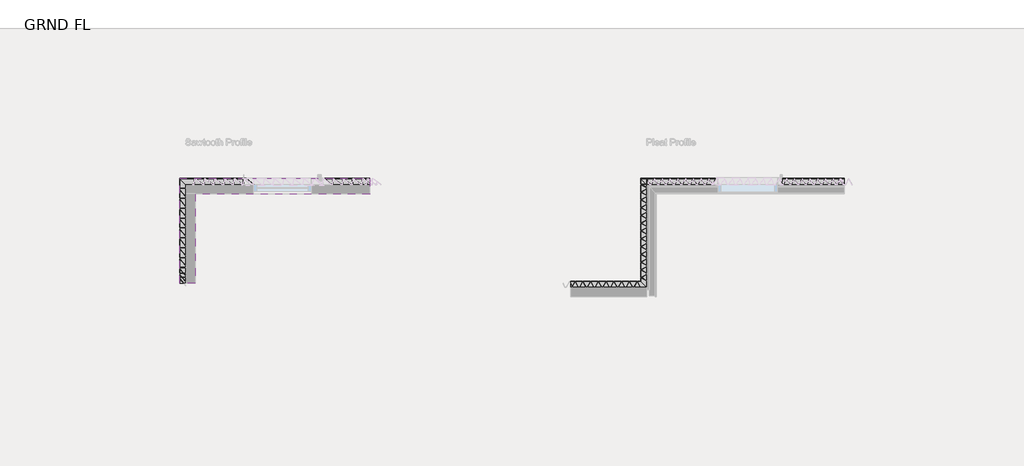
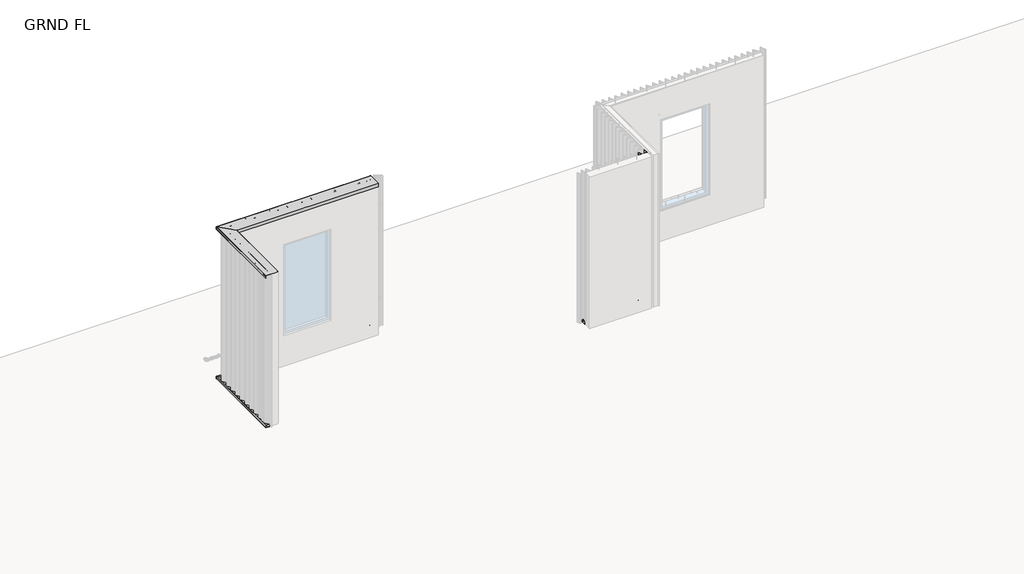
# One storey, part 8 of 13: 5 proxies.
"""IFC4 building model written with IfcOpenShell, lengths in millimetres."""

from ifc_helpers import new_model, si_unit, frame, origin, place, context, project, spatial, polyline, circle_curve, ellipse_curve, outline, extrude, element, save
from ifc_brep_helpers import plane_surface, cylinder_surface, revolved_surface, advanced_brep

model = new_model("IFC4")

# Units and contexts
model_context = context("Model", 3, world=origin())
ifc_project = project(units=[si_unit("LENGTHUNIT", "METRE", prefix="MILLI")], contexts=[model_context])

# Site, building, storey
site = spatial("IfcSite", under=ifc_project)
building = spatial("IfcBuilding", under=site)
storey = spatial("IfcBuildingStorey", under=building, Name="GRND FL", Elevation=35277.5920148)

# Proxies
placement = place(None, origin())
element("IfcBuildingElementProxy", 1, Name="Nineline Toe Flashing 90", ObjectType="Nineline Toe Flashing 90", at=placement, inside=storey, context=model_context, shape_type="AdvancedBrep", body=[
    advanced_brep(
    [(54399.6836337, -3651.6146039, 35324.5924717), (54399.6836337, -3651.6146039, 35280.5920148), (54402.6836337, -3654.6146039, 35277.5920148), (54492.6836337, -3744.6146039, 35277.5920148), (54475.0059641, -3726.9369344, 35295.2696843), (54474.2988573, -3726.2298276, 35294.5625775), (54490.2694201, -3742.2003903, 35278.5920148), (54402.6836337, -3654.6146039, 35278.5920148), (54400.6836337, -3652.6146039, 35280.5920148), (54400.6836337, -3652.6146039, 35324.5924717), (54402.6487288, -3654.5796991, 35326.5921671), (54494.6836337, -3746.6146039, 35328.1986423), (54494.6836337, -3746.6146039, 35407.5920148), (54493.6836337, -3745.6146039, 35407.5920148), (54493.6836337, -3745.6146039, 35329.1813396), (54402.6312764, -3654.5622467, 35327.5920148), (57493.6836337, -3651.6146039, 35324.5924717), (57493.6836337, -3654.5622467, 35327.5920148), (57493.6836337, -3745.6146039, 35329.1813396), (57493.6836337, -3745.6146039, 35407.5920148), (57493.6836337, -3746.6146039, 35407.5920148), (57493.6836337, -3746.6146039, 35328.1986423), (57493.6836337, -3654.5796991, 35326.5921671), (57493.6836337, -3652.6146039, 35324.5924717), (57493.6836337, -3652.6146039, 35280.5920148), (57493.6836337, -3654.6146039, 35278.5920148), (57493.6836337, -3742.2003903, 35278.5920148), (57493.6836337, -3726.2298276, 35294.5625775), (57493.6836337, -3726.9369344, 35295.2696843), (57493.6836337, -3744.6146039, 35277.5920148), (57493.6836337, -3654.6146039, 35277.5920148), (57493.6836337, -3651.6146039, 35280.5920148)],
    [
        (0, 1),
        (1, 2, ellipse_curve(frame((54402.6836337, -3654.6146039, 35280.5920148), z_axis=(-0.7071067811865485, -0.7071067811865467, 0.0), x_axis=(-0.7071067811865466, 0.7071067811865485, 0.0)), 4.2426407, 3.0)),
        (2, 3),
        (3, 4),
        (4, 5),
        (5, 6),
        (6, 7),
        (7, 8, ellipse_curve(frame((54402.6836337, -3654.6146039, 35280.5920148), z_axis=(0.7071067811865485, 0.7071067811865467, 0.0), x_axis=(0.7071067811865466, -0.7071067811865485, 0.0)), 2.8284271, 2.0)),
        (8, 9),
        (9, 10, ellipse_curve(frame((54402.6836337, -3654.6146039, 35324.5924717), z_axis=(0.7071067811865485, 0.7071067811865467, 0.0), x_axis=(0.7071067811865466, -0.7071067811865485, 0.0)), 2.8284271, 2.0)),
        (10, 11),
        (11, 12),
        (12, 13),
        (13, 14),
        (14, 15),
        (15, 0, ellipse_curve(frame((54402.6836337, -3654.6146039, 35324.5924717), z_axis=(-0.7071067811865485, -0.7071067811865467, 0.0), x_axis=(-0.7071067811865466, 0.7071067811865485, 0.0)), 4.2426407, 3.0)),
        (16, 17, circle_curve(frame((57493.6836337, -3654.6146039, 35324.5924717), z_axis=(1.0, 0.0, 0.0), x_axis=(0.0, 1.0, 0.0)), 3.0)),
        (17, 18),
        (18, 19),
        (19, 20),
        (20, 21),
        (21, 22),
        (22, 23, circle_curve(frame((57493.6836337, -3654.6146039, 35324.5924717), z_axis=(-1.0, 0.0, 0.0), x_axis=(0.0, 1.0, 0.0)), 2.0)),
        (23, 24),
        (24, 25, circle_curve(frame((57493.6836337, -3654.6146039, 35280.5920148), z_axis=(-1.0, 0.0, 0.0), x_axis=(0.0, 1.0, 0.0)), 2.0)),
        (25, 26),
        (26, 27),
        (27, 28),
        (28, 29),
        (29, 30),
        (30, 31, circle_curve(frame((57493.6836337, -3654.6146039, 35280.5920148), z_axis=(1.0, 0.0, 0.0), x_axis=(0.0, 1.0, 0.0)), 3.0)),
        (31, 16),
        (0, 16),
        (31, 1),
        (3, 29),
        (28, 4),
        (27, 5),
        (26, 6),
        (8, 24),
        (23, 9),
        (22, 10),
        (21, 11),
        (13, 19),
        (18, 14),
        (12, 20),
        (17, 15),
        (30, 2),
        (25, 7),
    ],
    [
        plane_surface(frame((54494.6836337, -3746.6146039, 35612.3920148), z_axis=(-0.7071067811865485, -0.7071067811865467, 0.0), x_axis=(0.7071067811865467, -0.7071067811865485, 0.0))),
        plane_surface(frame((57493.6836337, -3746.6146039, 35207.5870149), z_axis=(1.0, 0.0, 0.0), x_axis=(0.0, 1.0, 0.0))),
        plane_surface(frame((54399.6836337, -3651.6146039, 35324.5924717), z_axis=(0.0, 1.0, 0.0), x_axis=(1.0, 0.0, 0.0))),
        plane_surface(frame((54492.6836337, -3744.6146039, 35277.5920148), z_axis=(0.0, -0.7071067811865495, 0.7071067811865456), x_axis=(1.0, 0.0, 0.0))),
        plane_surface(frame((54475.0059641, -3726.9369344, 35295.2696843), z_axis=(0.0, 0.7071067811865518, 0.7071067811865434), x_axis=(1.0, 0.0, 0.0))),
        plane_surface(frame((54474.2988573, -3726.2298276, 35294.5625775), z_axis=(0.0, 0.7071067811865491, -0.707106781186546), x_axis=(1.0, 0.0, 0.0))),
        plane_surface(frame((54400.6836337, -3652.6146039, 35280.5920148), z_axis=(0.0, -1.0, 0.0), x_axis=(1.0, 0.0, 0.0))),
        revolved_surface(polyline([(57493.6836337, -3652.6146039, 35324.5924717), (54400.6836337, -3652.6146039, 35324.5924717)]), (54494.6836337, -3654.6146039, 35324.5924717), (1.0, 0.0, 0.0)),
        plane_surface(frame((54402.6487288, -3654.5796991, 35326.5921671), z_axis=(0.0, -0.017452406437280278, -0.9998476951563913), x_axis=(1.0, 0.0, 0.0))),
        plane_surface(frame((54493.6836337, -3745.6146039, 35407.5920148), z_axis=(0.0, 1.0, 0.0), x_axis=(1.0, 0.0, 0.0))),
        plane_surface(frame((54494.6836337, -3746.6146039, 35407.5920148), z_axis=(0.0, 0.0, 1.0), x_axis=(1.0, 0.0, 0.0))),
        plane_surface(frame((54494.6836337, -3746.6146039, 35328.1986423), z_axis=(0.0, -1.0, 0.0), x_axis=(1.0, 0.0, 0.0))),
        plane_surface(frame((54493.6836337, -3745.6146039, 35329.1813396), z_axis=(0.0, 0.017452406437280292, 0.9998476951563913), x_axis=(1.0, 0.0, 0.0))),
        cylinder_surface(frame((54494.6836337, -3654.6146039, 35324.5924717), z_axis=(-1.0, 0.0, 0.0), x_axis=(0.0, 1.0, 0.0)), 3.0),
        cylinder_surface(frame((54494.6836337, -3654.6146039, 35280.5920148), z_axis=(-1.0, 0.0, 0.0), x_axis=(0.0, 1.0, 0.0)), 3.0),
        plane_surface(frame((54402.6836337, -3654.6146039, 35277.5920148), z_axis=(0.0, 0.0, -1.0), x_axis=(1.0, 0.0, 0.0))),
        plane_surface(frame((54490.2694201, -3742.2003903, 35278.5920148), z_axis=(0.0, 0.0, 1.0), x_axis=(1.0, 0.0, 0.0))),
        revolved_surface(polyline([(57493.6836337, -3652.6146039, 35280.5920148), (54400.6836337, -3652.6146039, 35280.5920148)]), (54494.6836337, -3654.6146039, 35280.5920148), (1.0, 0.0, 0.0)),
    ],
    [
        (0, [[1, 2, 3, 4, 5, 6, 7, 8, 9, 10, 11, 12, 13, 14, 15, 16]]),
        (1, [[17, 18, 19, 20, 21, 22, 23, 24, 25, 26, 27, 28, 29, 30, 31, 32]]),
        (2, [[-1, 33, -32, 34]]),
        (3, [[-4, 35, -29, 36]]),
        (4, [[-5, -36, -28, 37]]),
        (5, [[-6, -37, -27, 38]]),
        (6, [[-9, 39, -24, 40]]),
        (7, [[-10, -40, -23, 41]]),
        (8, [[-11, -41, -22, 42]]),
        (9, [[-14, 43, -19, 44]]),
        (10, [[-13, 45, -20, -43]]),
        (11, [[-12, -42, -21, -45]]),
        (12, [[-15, -44, -18, 46]]),
        (13, [[-16, -46, -17, -33]]),
        (14, [[-2, -34, -31, 47]]),
        (15, [[-3, -47, -30, -35]]),
        (16, [[-7, -38, -26, 48]]),
        (17, [[-8, -48, -25, -39]]),
    ],
),
    advanced_brep(
    [(54399.6836337, -3651.6146039, 35324.5924717), (54402.6312764, -3654.5622467, 35327.5920148), (54493.6836337, -3745.6146039, 35329.1813396), (54493.6836337, -3745.6146039, 35407.5920148), (54494.6836337, -3746.6146039, 35407.5920148), (54494.6836337, -3746.6146039, 35328.1986423), (54402.6487288, -3654.5796991, 35326.5921671), (54400.6836337, -3652.6146039, 35324.5924717), (54400.6836337, -3652.6146039, 35280.5920148), (54402.6836337, -3654.6146039, 35278.5920148), (54490.2694201, -3742.2003903, 35278.5920148), (54474.2988573, -3726.2298276, 35294.5625775), (54475.0059641, -3726.9369344, 35295.2696843), (54492.6836337, -3744.6146039, 35277.5920148), (54402.6836337, -3654.6146039, 35277.5920148), (54399.6836337, -3651.6146039, 35280.5920148), (54399.6836337, -5211.8489789, 35324.5924717), (54399.6836337, -5211.8489789, 35280.5920148), (54402.6836337, -5214.8489789, 35277.5920148), (54492.6836337, -5304.8489789, 35277.5920148), (54475.0059641, -5287.1713094, 35295.2696843), (54474.2988573, -5286.4642026, 35294.5625775), (54490.2694201, -5302.4347653, 35278.5920148), (54402.6836337, -5214.8489789, 35278.5920148), (54400.6836337, -5212.8489789, 35280.5920148), (54400.6836337, -5212.8489789, 35324.5924717), (54402.6487288, -5214.8140741, 35326.5921671), (54494.6836337, -5306.8489789, 35328.1986423), (54494.6836337, -5306.8489789, 35407.5920148), (54493.6836337, -5305.8489789, 35407.5920148), (54493.6836337, -5305.8489789, 35329.1813396), (54402.6312764, -5214.7966217, 35327.5920148)],
    [
        (0, 1, ellipse_curve(frame((54402.6836337, -3654.6146039, 35324.5924717), z_axis=(0.7071067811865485, 0.7071067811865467, 0.0), x_axis=(-0.7071067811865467, 0.7071067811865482, 0.0)), 4.2426407, 3.0)),
        (1, 2),
        (2, 3),
        (3, 4),
        (4, 5),
        (5, 6),
        (6, 7, ellipse_curve(frame((54402.6836337, -3654.6146039, 35324.5924717), z_axis=(-0.7071067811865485, -0.7071067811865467, 0.0), x_axis=(0.7071067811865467, -0.7071067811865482, 0.0)), 2.8284271, 2.0)),
        (7, 8),
        (8, 9, ellipse_curve(frame((54402.6836337, -3654.6146039, 35280.5920148), z_axis=(-0.7071067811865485, -0.7071067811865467, 0.0), x_axis=(0.7071067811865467, -0.7071067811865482, 0.0)), 2.8284271, 2.0)),
        (9, 10),
        (10, 11),
        (11, 12),
        (12, 13),
        (13, 14),
        (14, 15, ellipse_curve(frame((54402.6836337, -3654.6146039, 35280.5920148), z_axis=(0.7071067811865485, 0.7071067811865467, 0.0), x_axis=(-0.7071067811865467, 0.7071067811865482, 0.0)), 4.2426407, 3.0)),
        (15, 0),
        (16, 17),
        (17, 18, ellipse_curve(frame((54402.6836337, -5214.8489789, 35280.5920148), z_axis=(-0.7071067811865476, -0.7071067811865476, 0.0), x_axis=(-0.7071067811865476, 0.7071067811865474, 0.0)), 4.2426407, 3.0)),
        (18, 19),
        (19, 20),
        (20, 21),
        (21, 22),
        (22, 23),
        (23, 24, ellipse_curve(frame((54402.6836337, -5214.8489789, 35280.5920148), z_axis=(0.7071067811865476, 0.7071067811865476, 0.0), x_axis=(0.7071067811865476, -0.7071067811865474, 0.0)), 2.8284271, 2.0)),
        (24, 25),
        (25, 26, ellipse_curve(frame((54402.6836337, -5214.8489789, 35324.5924717), z_axis=(0.7071067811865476, 0.7071067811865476, 0.0), x_axis=(0.7071067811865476, -0.7071067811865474, 0.0)), 2.8284271, 2.0)),
        (26, 27),
        (27, 28),
        (28, 29),
        (29, 30),
        (30, 31),
        (31, 16, ellipse_curve(frame((54402.6836337, -5214.8489789, 35324.5924717), z_axis=(-0.7071067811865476, -0.7071067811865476, 0.0), x_axis=(-0.7071067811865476, 0.7071067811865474, 0.0)), 4.2426407, 3.0)),
        (0, 16),
        (31, 1),
        (30, 2),
        (29, 3),
        (28, 4),
        (27, 5),
        (26, 6),
        (25, 7),
        (24, 8),
        (23, 9),
        (22, 10),
        (21, 11),
        (20, 12),
        (19, 13),
        (18, 14),
        (17, 15),
    ],
    [
        plane_surface(frame((54494.6836337, -3746.6146039, 35002.7920148), z_axis=(0.7071067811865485, 0.7071067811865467, 0.0), x_axis=(0.7071067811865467, -0.7071067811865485, 0.0))),
        plane_surface(frame((54494.6836337, -5306.8489789, 35612.3920148), z_axis=(-0.7071067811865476, -0.7071067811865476, 0.0), x_axis=(-0.7071067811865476, 0.7071067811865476, 0.0))),
        cylinder_surface(frame((54402.6836337, -3746.6146039, 35324.5924717), z_axis=(0.0, 1.0, 0.0), x_axis=(-1.0, 0.0, 0.0)), 3.0),
        plane_surface(frame((54402.6312764, -3654.5622467, 35327.5920148), z_axis=(-0.017452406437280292, 0.0, 0.9998476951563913), x_axis=(0.0, -1.0, 0.0))),
        plane_surface(frame((54493.6836337, -3745.6146039, 35329.1813396), z_axis=(-1.0, 0.0, 0.0), x_axis=(0.0, -1.0, 0.0))),
        plane_surface(frame((54493.6836337, -3745.6146039, 35407.5920148), z_axis=(0.0, 0.0, 1.0), x_axis=(0.0, -1.0, 0.0))),
        plane_surface(frame((54494.6836337, -3746.6146039, 35407.5920148), z_axis=(1.0, 0.0, 0.0), x_axis=(0.0, -1.0, 0.0))),
        plane_surface(frame((54494.6836337, -3746.6146039, 35328.1986423), z_axis=(0.017452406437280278, 0.0, -0.9998476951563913), x_axis=(0.0, -1.0, 0.0))),
        revolved_surface(polyline([(54400.6836337, -5216.848978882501, 35324.5924717), (54400.6836337, -3652.6146039, 35324.5924717)]), (54402.6836337, -3746.6146039, 35324.5924717), (0.0, -1.0, 0.0)),
        plane_surface(frame((54400.6836337, -3652.6146039, 35324.5924717), z_axis=(1.0, 0.0, 0.0), x_axis=(0.0, -1.0, 0.0))),
        revolved_surface(polyline([(54400.6836337, -5216.848978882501, 35280.5920148), (54400.6836337, -3652.6146039, 35280.5920148)]), (54402.6836337, -3746.6146039, 35280.5920148), (0.0, -1.0, 0.0)),
        plane_surface(frame((54402.6836337, -3654.6146039, 35278.5920148), z_axis=(0.0, 0.0, 1.0), x_axis=(0.0, -1.0, 0.0))),
        plane_surface(frame((54490.2694201, -3742.2003903, 35278.5920148), z_axis=(-0.7071067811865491, 0.0, -0.707106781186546), x_axis=(0.0, -1.0, 0.0))),
        plane_surface(frame((54474.2988573, -3726.2298276, 35294.5625775), z_axis=(-0.7071067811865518, 0.0, 0.7071067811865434), x_axis=(0.0, -1.0, 0.0))),
        plane_surface(frame((54475.0059641, -3726.9369344, 35295.2696843), z_axis=(0.7071067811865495, 0.0, 0.7071067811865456), x_axis=(0.0, -1.0, 0.0))),
        plane_surface(frame((54492.6836337, -3744.6146039, 35277.5920148), z_axis=(0.0, 0.0, -1.0), x_axis=(0.0, -1.0, 0.0))),
        cylinder_surface(frame((54402.6836337, -3746.6146039, 35280.5920148), z_axis=(0.0, 1.0, 0.0), x_axis=(-1.0, 0.0, 0.0)), 3.0),
        plane_surface(frame((54399.6836337, -3651.6146039, 35280.5920148), z_axis=(-1.0, 0.0, 0.0), x_axis=(0.0, -1.0, 0.0))),
    ],
    [
        (0, [[1, 2, 3, 4, 5, 6, 7, 8, 9, 10, 11, 12, 13, 14, 15, 16]]),
        (1, [[17, 18, 19, 20, 21, 22, 23, 24, 25, 26, 27, 28, 29, 30, 31, 32]]),
        (2, [[-1, 33, -32, 34]]),
        (3, [[-2, -34, -31, 35]]),
        (4, [[-3, -35, -30, 36]]),
        (5, [[-4, -36, -29, 37]]),
        (6, [[-5, -37, -28, 38]]),
        (7, [[-6, -38, -27, 39]]),
        (8, [[-7, -39, -26, 40]]),
        (9, [[-8, -40, -25, 41]]),
        (10, [[-9, -41, -24, 42]]),
        (11, [[-10, -42, -23, 43]]),
        (12, [[-11, -43, -22, 44]]),
        (13, [[-12, -44, -21, 45]]),
        (14, [[-13, -45, -20, 46]]),
        (15, [[-14, -46, -19, 47]]),
        (16, [[-15, -47, -18, 48]]),
        (17, [[-16, -48, -17, -33]]),
    ],
),
    advanced_brep(
    [(54399.6836337, -5211.8489789, 35324.5924717), (54402.6312764, -5214.7966217, 35327.5920148), (54493.6836337, -5305.8489789, 35329.1813396), (54493.6836337, -5305.8489789, 35407.5920148), (54494.6836337, -5306.8489789, 35407.5920148), (54494.6836337, -5306.8489789, 35328.1986423), (54402.6487288, -5214.8140741, 35326.5921671), (54400.6836337, -5212.8489789, 35324.5924717), (54400.6836337, -5212.8489789, 35280.5920148), (54402.6836337, -5214.8489789, 35278.5920148), (54490.2694201, -5302.4347653, 35278.5920148), (54474.2988573, -5286.4642026, 35294.5625775), (54475.0059641, -5287.1713094, 35295.2696843), (54492.6836337, -5304.8489789, 35277.5920148), (54402.6836337, -5214.8489789, 35277.5920148), (54399.6836337, -5211.8489789, 35280.5920148), (53334.6836337, -5211.8489789, 35324.5924717), (53334.6836337, -5211.8489789, 35280.5920148), (53334.6836337, -5214.8489789, 35277.5920148), (53334.6836337, -5304.8489789, 35277.5920148), (53334.6836337, -5287.1713094, 35295.2696843), (53334.6836337, -5286.4642026, 35294.5625775), (53334.6836337, -5302.4347653, 35278.5920148), (53334.6836337, -5214.8489789, 35278.5920148), (53334.6836337, -5212.8489789, 35280.5920148), (53334.6836337, -5212.8489789, 35324.5924717), (53334.6836337, -5214.8140741, 35326.5921671), (53334.6836337, -5306.8489789, 35328.1986423), (53334.6836337, -5306.8489789, 35407.5920148), (53334.6836337, -5305.8489789, 35407.5920148), (53334.6836337, -5305.8489789, 35329.1813396), (53334.6836337, -5214.7966217, 35327.5920148)],
    [
        (0, 1, ellipse_curve(frame((54402.6836337, -5214.8489789, 35324.5924717), z_axis=(0.7071067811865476, 0.7071067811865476, 0.0), x_axis=(0.7071067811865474, -0.7071067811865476, 0.0)), 4.2426407, 3.0)),
        (1, 2),
        (2, 3),
        (3, 4),
        (4, 5),
        (5, 6),
        (6, 7, ellipse_curve(frame((54402.6836337, -5214.8489789, 35324.5924717), z_axis=(-0.7071067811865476, -0.7071067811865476, 0.0), x_axis=(-0.7071067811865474, 0.7071067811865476, 0.0)), 2.8284271, 2.0)),
        (7, 8),
        (8, 9, ellipse_curve(frame((54402.6836337, -5214.8489789, 35280.5920148), z_axis=(-0.7071067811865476, -0.7071067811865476, 0.0), x_axis=(-0.7071067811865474, 0.7071067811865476, 0.0)), 2.8284271, 2.0)),
        (9, 10),
        (10, 11),
        (11, 12),
        (12, 13),
        (13, 14),
        (14, 15, ellipse_curve(frame((54402.6836337, -5214.8489789, 35280.5920148), z_axis=(0.7071067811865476, 0.7071067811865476, 0.0), x_axis=(0.7071067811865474, -0.7071067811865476, 0.0)), 4.2426407, 3.0)),
        (15, 0),
        (16, 17),
        (17, 18, circle_curve(frame((53334.6836337, -5214.8489789, 35280.5920148), z_axis=(-1.0, 0.0, 0.0), x_axis=(0.0, 1.0, 0.0)), 3.0)),
        (18, 19),
        (19, 20),
        (20, 21),
        (21, 22),
        (22, 23),
        (23, 24, circle_curve(frame((53334.6836337, -5214.8489789, 35280.5920148), z_axis=(1.0, 0.0, 0.0), x_axis=(0.0, 1.0, 0.0)), 2.0)),
        (24, 25),
        (25, 26, circle_curve(frame((53334.6836337, -5214.8489789, 35324.5924717), z_axis=(1.0, 0.0, 0.0), x_axis=(0.0, 1.0, 0.0)), 2.0)),
        (26, 27),
        (27, 28),
        (28, 29),
        (29, 30),
        (30, 31),
        (31, 16, circle_curve(frame((53334.6836337, -5214.8489789, 35324.5924717), z_axis=(-1.0, 0.0, 0.0), x_axis=(0.0, 1.0, 0.0)), 3.0)),
        (0, 16),
        (31, 1),
        (30, 2),
        (29, 3),
        (28, 4),
        (27, 5),
        (26, 6),
        (25, 7),
        (24, 8),
        (23, 9),
        (22, 10),
        (21, 11),
        (20, 12),
        (19, 13),
        (18, 14),
        (17, 15),
    ],
    [
        plane_surface(frame((54494.6836337, -5306.8489789, 35612.3920148), z_axis=(0.7071067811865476, 0.7071067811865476, 0.0), x_axis=(-0.7071067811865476, 0.7071067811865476, 0.0))),
        plane_surface(frame((53334.6836337, -5306.8489789, 35207.5870149), z_axis=(-1.0, 0.0, 0.0), x_axis=(0.0, -1.0, 0.0))),
        cylinder_surface(frame((54494.6836337, -5214.8489789, 35324.5924717), z_axis=(1.0, 0.0, 0.0), x_axis=(0.0, 1.0, 0.0)), 3.0),
        plane_surface(frame((54402.6312764, -5214.7966217, 35327.5920148), z_axis=(0.0, 0.017452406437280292, 0.9998476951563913), x_axis=(-1.0, 0.0, 0.0))),
        plane_surface(frame((54493.6836337, -5305.8489789, 35329.1813396), z_axis=(0.0, 1.0, 0.0), x_axis=(-1.0, 0.0, 0.0))),
        plane_surface(frame((54493.6836337, -5305.8489789, 35407.5920148), z_axis=(0.0, 0.0, 1.0), x_axis=(-1.0, 0.0, 0.0))),
        plane_surface(frame((54494.6836337, -5306.8489789, 35407.5920148), z_axis=(0.0, -1.0, 0.0), x_axis=(-1.0, 0.0, 0.0))),
        plane_surface(frame((54494.6836337, -5306.8489789, 35328.1986423), z_axis=(0.0, -0.017452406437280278, -0.9998476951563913), x_axis=(-1.0, 0.0, 0.0))),
        revolved_surface(polyline([(53334.6836337, -5212.8489789, 35324.5924717), (54404.6836336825, -5212.8489789, 35324.5924717)]), (54494.6836337, -5214.8489789, 35324.5924717), (-1.0, 0.0, 0.0)),
        plane_surface(frame((54400.6836337, -5212.8489789, 35324.5924717), z_axis=(0.0, -1.0, 0.0), x_axis=(-1.0, 0.0, 0.0))),
        revolved_surface(polyline([(53334.6836337, -5212.8489789, 35280.5920148), (54404.6836336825, -5212.8489789, 35280.5920148)]), (54494.6836337, -5214.8489789, 35280.5920148), (-1.0, 0.0, 0.0)),
        plane_surface(frame((54402.6836337, -5214.8489789, 35278.5920148), z_axis=(0.0, 0.0, 1.0), x_axis=(-1.0, 0.0, 0.0))),
        plane_surface(frame((54490.2694201, -5302.4347653, 35278.5920148), z_axis=(0.0, 0.7071067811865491, -0.707106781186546), x_axis=(-1.0, 0.0, 0.0))),
        plane_surface(frame((54474.2988573, -5286.4642026, 35294.5625775), z_axis=(0.0, 0.7071067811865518, 0.7071067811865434), x_axis=(-1.0, 0.0, 0.0))),
        plane_surface(frame((54475.0059641, -5287.1713094, 35295.2696843), z_axis=(0.0, -0.7071067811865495, 0.7071067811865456), x_axis=(-1.0, 0.0, 0.0))),
        plane_surface(frame((54492.6836337, -5304.8489789, 35277.5920148), z_axis=(0.0, 0.0, -1.0), x_axis=(-1.0, 0.0, 0.0))),
        cylinder_surface(frame((54494.6836337, -5214.8489789, 35280.5920148), z_axis=(1.0, 0.0, 0.0), x_axis=(0.0, 1.0, 0.0)), 3.0),
        plane_surface(frame((54399.6836337, -5211.8489789, 35280.5920148), z_axis=(0.0, 1.0, 0.0), x_axis=(-1.0, 0.0, 0.0))),
    ],
    [
        (0, [[1, 2, 3, 4, 5, 6, 7, 8, 9, 10, 11, 12, 13, 14, 15, 16]]),
        (1, [[17, 18, 19, 20, 21, 22, 23, 24, 25, 26, 27, 28, 29, 30, 31, 32]]),
        (2, [[-1, 33, -32, 34]]),
        (3, [[-2, -34, -31, 35]]),
        (4, [[-3, -35, -30, 36]]),
        (5, [[-4, -36, -29, 37]]),
        (6, [[-5, -37, -28, 38]]),
        (7, [[-6, -38, -27, 39]]),
        (8, [[-7, -39, -26, 40]]),
        (9, [[-8, -40, -25, 41]]),
        (10, [[-9, -41, -24, 42]]),
        (11, [[-10, -42, -23, 43]]),
        (12, [[-11, -43, -22, 44]]),
        (13, [[-12, -44, -21, 45]]),
        (14, [[-13, -45, -20, 46]]),
        (15, [[-14, -46, -19, 47]]),
        (16, [[-15, -47, -18, 48]]),
        (17, [[-16, -48, -17, -33]]),
    ],
),
])
element("IfcBuildingElementProxy", 2, Name="Nineline Parapet Capping 235", ObjectType="Nineline Parapet Capping 235", at=placement, inside=storey, context=model_context, shape_type="AdvancedBrep", body=[
    advanced_brep(
    [(47398.6836337, -3650.6146039, 38279.5924717), (47398.6836337, -3650.6146039, 38232.5920148), (47402.6836337, -3654.6146039, 38265.1694005), (47401.6910875, -3653.6220578, 38265.2912699), (47399.6836337, -3651.6146039, 38248.9418703), (47399.6836337, -3651.6146039, 38279.5924717), (47401.7185385, -3653.6495087, 38281.5921671), (47637.6836337, -3889.6146039, 38277.473381), (47637.6836337, -3889.6146039, 38212.5920148), (47638.6836337, -3890.6146039, 38212.5920148), (47638.6836337, -3890.6146039, 38278.4560783), (47401.7359909, -3653.6669611, 38282.5920148), (50283.683634, -3650.6146039, 38279.5924717), (50283.683634, -3653.6669611, 38282.5920148), (50283.683634, -3890.6146039, 38278.4560783), (50283.683634, -3890.6146039, 38212.5920148), (50283.683634, -3889.6146039, 38212.5920148), (50283.683634, -3889.6146039, 38277.473381), (50283.683634, -3653.6495087, 38281.5921671), (50283.683634, -3651.6146039, 38279.5924717), (50283.683634, -3651.6146039, 38248.9418703), (50283.683634, -3653.6220578, 38265.2912699), (50283.683634, -3654.6146039, 38265.1694005), (50283.683634, -3650.6146039, 38232.5920148)],
    [
        (0, 1),
        (1, 2),
        (2, 3),
        (3, 4),
        (4, 5),
        (5, 6, ellipse_curve(frame((47401.6836337, -3653.6146039, 38279.5924717), z_axis=(0.7071067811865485, 0.7071067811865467, 0.0), x_axis=(0.7071067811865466, -0.7071067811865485, 0.0)), 2.8284271, 2.0)),
        (6, 7),
        (7, 8),
        (8, 9),
        (9, 10),
        (10, 11),
        (11, 0, ellipse_curve(frame((47401.6836337, -3653.6146039, 38279.5924717), z_axis=(-0.7071067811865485, -0.7071067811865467, 0.0), x_axis=(-0.7071067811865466, 0.7071067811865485, 0.0)), 4.2426407, 3.0)),
        (12, 13, circle_curve(frame((50283.683634, -3653.6146039, 38279.5924717), z_axis=(1.0, 0.0, 0.0), x_axis=(0.0, 1.0, 0.0)), 3.0)),
        (13, 14),
        (14, 15),
        (15, 16),
        (16, 17),
        (17, 18),
        (18, 19, circle_curve(frame((50283.683634, -3653.6146039, 38279.5924717), z_axis=(-1.0, 0.0, 0.0), x_axis=(0.0, 1.0, 0.0)), 2.0)),
        (19, 20),
        (20, 21),
        (21, 22),
        (22, 23),
        (23, 12),
        (0, 12),
        (23, 1),
        (22, 2),
        (21, 3),
        (20, 4),
        (19, 5),
        (18, 6),
        (17, 7),
        (16, 8),
        (15, 9),
        (14, 10),
        (13, 11),
    ],
    [
        plane_surface(frame((47493.6836337, -3745.6146039, 38582.3920148), z_axis=(-0.7071067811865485, -0.7071067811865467, 0.0), x_axis=(0.7071067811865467, -0.7071067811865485, 0.0))),
        plane_surface(frame((50283.683634, -3745.6146039, 38118.689529), z_axis=(1.0, 0.0, 0.0), x_axis=(0.0, 1.0, 0.0))),
        plane_surface(frame((47398.6836337, -3650.6146039, 38279.5924717), z_axis=(0.0, 1.0, 0.0), x_axis=(1.0, 0.0, 0.0))),
        plane_surface(frame((47398.6836337, -3650.6146039, 38232.5920148), z_axis=(0.0, -0.9925461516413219, -0.12186934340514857), x_axis=(1.0, 0.0, 0.0))),
        plane_surface(frame((47402.6836337, -3654.6146039, 38265.1694005), z_axis=(0.0, -0.12186934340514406, 0.9925461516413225), x_axis=(1.0, 0.0, 0.0))),
        plane_surface(frame((47401.6910875, -3653.6220578, 38265.2912699), z_axis=(0.0, 0.992546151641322, 0.12186934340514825), x_axis=(1.0, 0.0, 0.0))),
        plane_surface(frame((47399.6836337, -3651.6146039, 38248.9418703), z_axis=(0.0, -1.0, 0.0), x_axis=(1.0, 0.0, 0.0))),
        revolved_surface(polyline([(50283.683634, -3651.6146039, 38279.5924717), (47399.6836337, -3651.6146039, 38279.5924717)]), (47493.6836337, -3653.6146039, 38279.5924717), (1.0, 0.0, 0.0)),
        plane_surface(frame((47401.7185385, -3653.6495087, 38281.5921671), z_axis=(0.0, 0.017452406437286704, -0.9998476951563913), x_axis=(1.0, 0.0, 0.0))),
        plane_surface(frame((47637.6836337, -3889.6146039, 38277.473381), z_axis=(0.0, 1.0, 0.0), x_axis=(1.0, 0.0, 0.0))),
        plane_surface(frame((47637.6836337, -3889.6146039, 38212.5920148), z_axis=(0.0, 0.0, -1.0), x_axis=(1.0, 0.0, 0.0))),
        plane_surface(frame((47638.6836337, -3890.6146039, 38212.5920148), z_axis=(0.0, -1.0, 0.0), x_axis=(1.0, 0.0, 0.0))),
        plane_surface(frame((47638.6836337, -3890.6146039, 38278.4560783), z_axis=(0.0, -0.017452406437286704, 0.9998476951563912), x_axis=(1.0, 0.0, 0.0))),
        cylinder_surface(frame((47493.6836337, -3653.6146039, 38279.5924717), z_axis=(-1.0, 0.0, 0.0), x_axis=(0.0, 1.0, 0.0)), 3.0),
    ],
    [
        (0, [[1, 2, 3, 4, 5, 6, 7, 8, 9, 10, 11, 12]]),
        (1, [[13, 14, 15, 16, 17, 18, 19, 20, 21, 22, 23, 24]]),
        (2, [[-1, 25, -24, 26]]),
        (3, [[-2, -26, -23, 27]]),
        (4, [[-3, -27, -22, 28]]),
        (5, [[-4, -28, -21, 29]]),
        (6, [[-5, -29, -20, 30]]),
        (7, [[-6, -30, -19, 31]]),
        (8, [[-7, -31, -18, 32]]),
        (9, [[-8, -32, -17, 33]]),
        (10, [[-9, -33, -16, 34]]),
        (11, [[-10, -34, -15, 35]]),
        (12, [[-11, -35, -14, 36]]),
        (13, [[-12, -36, -13, -25]]),
    ],
),
    advanced_brep(
    [(47398.6836337, -3650.6146039, 38279.5924717), (47401.7359909, -3653.6669611, 38282.5920148), (47638.6836337, -3890.6146039, 38278.4560783), (47638.6836337, -3890.6146039, 38212.5920148), (47637.6836337, -3889.6146039, 38212.5920148), (47637.6836337, -3889.6146039, 38277.473381), (47401.7185385, -3653.6495087, 38281.5921671), (47399.6836337, -3651.6146039, 38279.5924717), (47399.6836337, -3651.6146039, 38248.9418703), (47401.6910875, -3653.6220578, 38265.2912699), (47402.6836337, -3654.6146039, 38265.1694005), (47398.6836337, -3650.6146039, 38232.5920148), (47398.6836337, -5245.6146039, 38279.5924717), (47398.6836337, -5245.6146039, 38232.5920148), (47402.6836337, -5245.6146039, 38265.1694005), (47401.6910875, -5245.6146039, 38265.2912699), (47399.6836337, -5245.6146039, 38248.9418703), (47399.6836337, -5245.6146039, 38279.5924717), (47401.7185385, -5245.6146039, 38281.5921671), (47637.6836337, -5245.6146039, 38277.473381), (47637.6836337, -5245.6146039, 38212.5920148), (47638.6836337, -5245.6146039, 38212.5920148), (47638.6836337, -5245.6146039, 38278.4560783), (47401.7359909, -5245.6146039, 38282.5920148)],
    [
        (0, 1, ellipse_curve(frame((47401.6836337, -3653.6146039, 38279.5924717), z_axis=(0.7071067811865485, 0.7071067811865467, 0.0), x_axis=(-0.7071067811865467, 0.7071067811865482, 0.0)), 4.2426407, 3.0)),
        (1, 2),
        (2, 3),
        (3, 4),
        (4, 5),
        (5, 6),
        (6, 7, ellipse_curve(frame((47401.6836337, -3653.6146039, 38279.5924717), z_axis=(-0.7071067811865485, -0.7071067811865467, 0.0), x_axis=(0.7071067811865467, -0.7071067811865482, 0.0)), 2.8284271, 2.0)),
        (7, 8),
        (8, 9),
        (9, 10),
        (10, 11),
        (11, 0),
        (12, 13),
        (13, 14),
        (14, 15),
        (15, 16),
        (16, 17),
        (17, 18, circle_curve(frame((47401.6836337, -5245.6146039, 38279.5924717), z_axis=(0.0, 1.0, 0.0), x_axis=(-1.0, 0.0, 0.0)), 2.0)),
        (18, 19),
        (19, 20),
        (20, 21),
        (21, 22),
        (22, 23),
        (23, 12, circle_curve(frame((47401.6836337, -5245.6146039, 38279.5924717), z_axis=(0.0, -1.0, 0.0), x_axis=(-1.0, 0.0, 0.0)), 3.0)),
        (0, 12),
        (23, 1),
        (22, 2),
        (21, 3),
        (20, 4),
        (19, 5),
        (18, 6),
        (17, 7),
        (16, 8),
        (15, 9),
        (14, 10),
        (13, 11),
    ],
    [
        plane_surface(frame((47493.6836337, -3745.6146039, 37972.7920148), z_axis=(0.7071067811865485, 0.7071067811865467, 0.0), x_axis=(0.7071067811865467, -0.7071067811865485, 0.0))),
        plane_surface(frame((47334.7811478, -5245.6146039, 38277.5920148), z_axis=(0.0, -1.0, 0.0), x_axis=(0.0, 0.0, -1.0))),
        cylinder_surface(frame((47401.6836337, -3745.6146039, 38279.5924717), z_axis=(0.0, 1.0, 0.0), x_axis=(-1.0, 0.0, 0.0)), 3.0),
        plane_surface(frame((47401.7359909, -3653.6669611, 38282.5920148), z_axis=(0.017452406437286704, 0.0, 0.9998476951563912), x_axis=(0.0, -1.0, 0.0))),
        plane_surface(frame((47638.6836337, -3890.6146039, 38278.4560783), z_axis=(1.0, 0.0, 0.0), x_axis=(0.0, -1.0, 0.0))),
        plane_surface(frame((47638.6836337, -3890.6146039, 38212.5920148), z_axis=(0.0, 0.0, -1.0), x_axis=(0.0, -1.0, 0.0))),
        plane_surface(frame((47637.6836337, -3889.6146039, 38212.5920148), z_axis=(-1.0, 0.0, 0.0), x_axis=(0.0, -1.0, 0.0))),
        plane_surface(frame((47637.6836337, -3889.6146039, 38277.473381), z_axis=(-0.017452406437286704, 0.0, -0.9998476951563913), x_axis=(0.0, -1.0, 0.0))),
        revolved_surface(polyline([(47399.6836337, -5245.6146039, 38279.5924717), (47399.6836337, -3651.6146039, 38279.5924717)]), (47401.6836337, -3745.6146039, 38279.5924717), (0.0, -1.0, 0.0)),
        plane_surface(frame((47399.6836337, -3651.6146039, 38279.5924717), z_axis=(1.0, 0.0, 0.0), x_axis=(0.0, -1.0, 0.0))),
        plane_surface(frame((47399.6836337, -3651.6146039, 38248.9418703), z_axis=(-0.992546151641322, 0.0, 0.12186934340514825), x_axis=(0.0, -1.0, 0.0))),
        plane_surface(frame((47401.6910875, -3653.6220578, 38265.2912699), z_axis=(0.12186934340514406, 0.0, 0.9925461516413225), x_axis=(0.0, -1.0, 0.0))),
        plane_surface(frame((47402.6836337, -3654.6146039, 38265.1694005), z_axis=(0.9925461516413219, 0.0, -0.12186934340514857), x_axis=(0.0, -1.0, 0.0))),
        plane_surface(frame((47398.6836337, -3650.6146039, 38232.5920148), z_axis=(-1.0, 0.0, 0.0), x_axis=(0.0, -1.0, 0.0))),
    ],
    [
        (0, [[1, 2, 3, 4, 5, 6, 7, 8, 9, 10, 11, 12]]),
        (1, [[13, 14, 15, 16, 17, 18, 19, 20, 21, 22, 23, 24]]),
        (2, [[-1, 25, -24, 26]]),
        (3, [[-2, -26, -23, 27]]),
        (4, [[-3, -27, -22, 28]]),
        (5, [[-4, -28, -21, 29]]),
        (6, [[-5, -29, -20, 30]]),
        (7, [[-6, -30, -19, 31]]),
        (8, [[-7, -31, -18, 32]]),
        (9, [[-8, -32, -17, 33]]),
        (10, [[-9, -33, -16, 34]]),
        (11, [[-10, -34, -15, 35]]),
        (12, [[-11, -35, -14, 36]]),
        (13, [[-12, -36, -13, -25]]),
    ],
),
])
element("IfcBuildingElementProxy", 3, Name="Nineline Toe Flashing 90", ObjectType="Nineline Toe Flashing 90", at=placement, inside=storey, context=model_context, shape_type="AdvancedBrep", body=[
    advanced_brep(
    [(47399.6836337, -3651.6146039, 35324.5924717), (47399.6836337, -3651.6146039, 35280.5920148), (47402.6836337, -3654.6146039, 35277.5920148), (47492.6836337, -3744.6146039, 35277.5920148), (47475.0059641, -3726.9369344, 35295.2696843), (47474.2988573, -3726.2298276, 35294.5625775), (47490.2694201, -3742.2003903, 35278.5920148), (47402.6836337, -3654.6146039, 35278.5920148), (47400.6836337, -3652.6146039, 35280.5920148), (47400.6836337, -3652.6146039, 35324.5924717), (47402.6487288, -3654.5796991, 35326.5921671), (47494.6836337, -3746.6146039, 35328.1986423), (47494.6836337, -3746.6146039, 35407.5920148), (47493.6836337, -3745.6146039, 35407.5920148), (47493.6836337, -3745.6146039, 35329.1813396), (47402.6312764, -3654.5622467, 35327.5920148), (50283.683634, -3651.6146039, 35324.5924717), (50283.683634, -3654.5622467, 35327.5920148), (50283.683634, -3745.6146039, 35329.1813396), (50283.683634, -3745.6146039, 35407.5920148), (50283.683634, -3746.6146039, 35407.5920148), (50283.683634, -3746.6146039, 35328.1986423), (50283.683634, -3654.5796991, 35326.5921671), (50283.683634, -3652.6146039, 35324.5924717), (50283.683634, -3652.6146039, 35280.5920148), (50283.683634, -3654.6146039, 35278.5920148), (50283.683634, -3742.2003903, 35278.5920148), (50283.683634, -3726.2298276, 35294.5625775), (50283.683634, -3726.9369344, 35295.2696843), (50283.683634, -3744.6146039, 35277.5920148), (50283.683634, -3654.6146039, 35277.5920148), (50283.683634, -3651.6146039, 35280.5920148)],
    [
        (0, 1),
        (1, 2, ellipse_curve(frame((47402.6836337, -3654.6146039, 35280.5920148), z_axis=(-0.7071067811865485, -0.7071067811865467, 0.0), x_axis=(-0.7071067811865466, 0.7071067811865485, 0.0)), 4.2426407, 3.0)),
        (2, 3),
        (3, 4),
        (4, 5),
        (5, 6),
        (6, 7),
        (7, 8, ellipse_curve(frame((47402.6836337, -3654.6146039, 35280.5920148), z_axis=(0.7071067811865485, 0.7071067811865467, 0.0), x_axis=(0.7071067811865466, -0.7071067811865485, 0.0)), 2.8284271, 2.0)),
        (8, 9),
        (9, 10, ellipse_curve(frame((47402.6836337, -3654.6146039, 35324.5924717), z_axis=(0.7071067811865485, 0.7071067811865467, 0.0), x_axis=(0.7071067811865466, -0.7071067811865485, 0.0)), 2.8284271, 2.0)),
        (10, 11),
        (11, 12),
        (12, 13),
        (13, 14),
        (14, 15),
        (15, 0, ellipse_curve(frame((47402.6836337, -3654.6146039, 35324.5924717), z_axis=(-0.7071067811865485, -0.7071067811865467, 0.0), x_axis=(-0.7071067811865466, 0.7071067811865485, 0.0)), 4.2426407, 3.0)),
        (16, 17, circle_curve(frame((50283.683634, -3654.6146039, 35324.5924717), z_axis=(1.0, 0.0, 0.0), x_axis=(0.0, 1.0, 0.0)), 3.0)),
        (17, 18),
        (18, 19),
        (19, 20),
        (20, 21),
        (21, 22),
        (22, 23, circle_curve(frame((50283.683634, -3654.6146039, 35324.5924717), z_axis=(-1.0, 0.0, 0.0), x_axis=(0.0, 1.0, 0.0)), 2.0)),
        (23, 24),
        (24, 25, circle_curve(frame((50283.683634, -3654.6146039, 35280.5920148), z_axis=(-1.0, 0.0, 0.0), x_axis=(0.0, 1.0, 0.0)), 2.0)),
        (25, 26),
        (26, 27),
        (27, 28),
        (28, 29),
        (29, 30),
        (30, 31, circle_curve(frame((50283.683634, -3654.6146039, 35280.5920148), z_axis=(1.0, 0.0, 0.0), x_axis=(0.0, 1.0, 0.0)), 3.0)),
        (31, 16),
        (0, 16),
        (31, 1),
        (30, 2),
        (29, 3),
        (28, 4),
        (27, 5),
        (26, 6),
        (25, 7),
        (24, 8),
        (23, 9),
        (22, 10),
        (21, 11),
        (20, 12),
        (19, 13),
        (18, 14),
        (17, 15),
    ],
    [
        plane_surface(frame((47494.6836337, -3746.6146039, 35612.3920148), z_axis=(-0.7071067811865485, -0.7071067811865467, 0.0), x_axis=(0.7071067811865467, -0.7071067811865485, 0.0))),
        plane_surface(frame((50283.683634, -3746.6146039, 35207.5870149), z_axis=(1.0, 0.0, 0.0), x_axis=(0.0, 1.0, 0.0))),
        plane_surface(frame((47399.6836337, -3651.6146039, 35324.5924717), z_axis=(0.0, 1.0, 0.0), x_axis=(1.0, 0.0, 0.0))),
        cylinder_surface(frame((47494.6836337, -3654.6146039, 35280.5920148), z_axis=(-1.0, 0.0, 0.0), x_axis=(0.0, 1.0, 0.0)), 3.0),
        plane_surface(frame((47402.6836337, -3654.6146039, 35277.5920148), z_axis=(0.0, 0.0, -1.0), x_axis=(1.0, 0.0, 0.0))),
        plane_surface(frame((47492.6836337, -3744.6146039, 35277.5920148), z_axis=(0.0, -0.7071067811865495, 0.7071067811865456), x_axis=(1.0, 0.0, 0.0))),
        plane_surface(frame((47475.0059641, -3726.9369344, 35295.2696843), z_axis=(0.0, 0.7071067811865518, 0.7071067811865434), x_axis=(1.0, 0.0, 0.0))),
        plane_surface(frame((47474.2988573, -3726.2298276, 35294.5625775), z_axis=(0.0, 0.7071067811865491, -0.707106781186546), x_axis=(1.0, 0.0, 0.0))),
        plane_surface(frame((47490.2694201, -3742.2003903, 35278.5920148), z_axis=(0.0, 0.0, 1.0), x_axis=(1.0, 0.0, 0.0))),
        revolved_surface(polyline([(50283.683634, -3652.6146039, 35280.5920148), (47400.6836337, -3652.6146039, 35280.5920148)]), (47494.6836337, -3654.6146039, 35280.5920148), (1.0, 0.0, 0.0)),
        plane_surface(frame((47400.6836337, -3652.6146039, 35280.5920148), z_axis=(0.0, -1.0, 0.0), x_axis=(1.0, 0.0, 0.0))),
        revolved_surface(polyline([(50283.683634, -3652.6146039, 35324.5924717), (47400.6836337, -3652.6146039, 35324.5924717)]), (47494.6836337, -3654.6146039, 35324.5924717), (1.0, 0.0, 0.0)),
        plane_surface(frame((47402.6487288, -3654.5796991, 35326.5921671), z_axis=(0.0, -0.017452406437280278, -0.9998476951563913), x_axis=(1.0, 0.0, 0.0))),
        plane_surface(frame((47494.6836337, -3746.6146039, 35328.1986423), z_axis=(0.0, -1.0, 0.0), x_axis=(1.0, 0.0, 0.0))),
        plane_surface(frame((47494.6836337, -3746.6146039, 35407.5920148), z_axis=(0.0, 0.0, 1.0), x_axis=(1.0, 0.0, 0.0))),
        plane_surface(frame((47493.6836337, -3745.6146039, 35407.5920148), z_axis=(0.0, 1.0, 0.0), x_axis=(1.0, 0.0, 0.0))),
        plane_surface(frame((47493.6836337, -3745.6146039, 35329.1813396), z_axis=(0.0, 0.017452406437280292, 0.9998476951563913), x_axis=(1.0, 0.0, 0.0))),
        cylinder_surface(frame((47494.6836337, -3654.6146039, 35324.5924717), z_axis=(-1.0, 0.0, 0.0), x_axis=(0.0, 1.0, 0.0)), 3.0),
    ],
    [
        (0, [[1, 2, 3, 4, 5, 6, 7, 8, 9, 10, 11, 12, 13, 14, 15, 16]]),
        (1, [[17, 18, 19, 20, 21, 22, 23, 24, 25, 26, 27, 28, 29, 30, 31, 32]]),
        (2, [[-1, 33, -32, 34]]),
        (3, [[-2, -34, -31, 35]]),
        (4, [[-3, -35, -30, 36]]),
        (5, [[-4, -36, -29, 37]]),
        (6, [[-5, -37, -28, 38]]),
        (7, [[-6, -38, -27, 39]]),
        (8, [[-7, -39, -26, 40]]),
        (9, [[-8, -40, -25, 41]]),
        (10, [[-9, -41, -24, 42]]),
        (11, [[-10, -42, -23, 43]]),
        (12, [[-11, -43, -22, 44]]),
        (13, [[-12, -44, -21, 45]]),
        (14, [[-13, -45, -20, 46]]),
        (15, [[-14, -46, -19, 47]]),
        (16, [[-15, -47, -18, 48]]),
        (17, [[-16, -48, -17, -33]]),
    ],
),
    advanced_brep(
    [(47399.6836337, -3651.6146039, 35324.5924717), (47402.6312764, -3654.5622467, 35327.5920148), (47493.6836337, -3745.6146039, 35329.1813396), (47493.6836337, -3745.6146039, 35407.5920148), (47494.6836337, -3746.6146039, 35407.5920148), (47494.6836337, -3746.6146039, 35328.1986423), (47402.6487288, -3654.5796991, 35326.5921671), (47400.6836337, -3652.6146039, 35324.5924717), (47400.6836337, -3652.6146039, 35280.5920148), (47402.6836337, -3654.6146039, 35278.5920148), (47490.2694201, -3742.2003903, 35278.5920148), (47474.2988573, -3726.2298276, 35294.5625775), (47475.0059641, -3726.9369344, 35295.2696843), (47492.6836337, -3744.6146039, 35277.5920148), (47402.6836337, -3654.6146039, 35277.5920148), (47399.6836337, -3651.6146039, 35280.5920148), (47399.6836337, -5245.6146039, 35324.5924717), (47399.6836337, -5245.6146039, 35280.5920148), (47402.6836337, -5245.6146039, 35277.5920148), (47492.6836337, -5245.6146039, 35277.5920148), (47475.0059641, -5245.6146039, 35295.2696843), (47474.2988573, -5245.6146039, 35294.5625775), (47490.2694201, -5245.6146039, 35278.5920148), (47402.6836337, -5245.6146039, 35278.5920148), (47400.6836337, -5245.6146039, 35280.5920148), (47400.6836337, -5245.6146039, 35324.5924717), (47402.6487288, -5245.6146039, 35326.5921671), (47494.6836337, -5245.6146039, 35328.1986423), (47494.6836337, -5245.6146039, 35407.5920148), (47493.6836337, -5245.6146039, 35407.5920148), (47493.6836337, -5245.6146039, 35329.1813396), (47402.6312764, -5245.6146039, 35327.5920148)],
    [
        (0, 1, ellipse_curve(frame((47402.6836337, -3654.6146039, 35324.5924717), z_axis=(0.7071067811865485, 0.7071067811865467, 0.0), x_axis=(-0.7071067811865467, 0.7071067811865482, 0.0)), 4.2426407, 3.0)),
        (1, 2),
        (2, 3),
        (3, 4),
        (4, 5),
        (5, 6),
        (6, 7, ellipse_curve(frame((47402.6836337, -3654.6146039, 35324.5924717), z_axis=(-0.7071067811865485, -0.7071067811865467, 0.0), x_axis=(0.7071067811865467, -0.7071067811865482, 0.0)), 2.8284271, 2.0)),
        (7, 8),
        (8, 9, ellipse_curve(frame((47402.6836337, -3654.6146039, 35280.5920148), z_axis=(-0.7071067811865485, -0.7071067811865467, 0.0), x_axis=(0.7071067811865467, -0.7071067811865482, 0.0)), 2.8284271, 2.0)),
        (9, 10),
        (10, 11),
        (11, 12),
        (12, 13),
        (13, 14),
        (14, 15, ellipse_curve(frame((47402.6836337, -3654.6146039, 35280.5920148), z_axis=(0.7071067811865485, 0.7071067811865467, 0.0), x_axis=(-0.7071067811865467, 0.7071067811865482, 0.0)), 4.2426407, 3.0)),
        (15, 0),
        (16, 17),
        (17, 18, circle_curve(frame((47402.6836337, -5245.6146039, 35280.5920148), z_axis=(0.0, -1.0, 0.0), x_axis=(-1.0, 0.0, 0.0)), 3.0)),
        (18, 19),
        (19, 20),
        (20, 21),
        (21, 22),
        (22, 23),
        (23, 24, circle_curve(frame((47402.6836337, -5245.6146039, 35280.5920148), z_axis=(0.0, 1.0, 0.0), x_axis=(-1.0, 0.0, 0.0)), 2.0)),
        (24, 25),
        (25, 26, circle_curve(frame((47402.6836337, -5245.6146039, 35324.5924717), z_axis=(0.0, 1.0, 0.0), x_axis=(-1.0, 0.0, 0.0)), 2.0)),
        (26, 27),
        (27, 28),
        (28, 29),
        (29, 30),
        (30, 31),
        (31, 16, circle_curve(frame((47402.6836337, -5245.6146039, 35324.5924717), z_axis=(0.0, -1.0, 0.0), x_axis=(-1.0, 0.0, 0.0)), 3.0)),
        (0, 16),
        (31, 1),
        (30, 2),
        (29, 3),
        (28, 4),
        (27, 5),
        (26, 6),
        (25, 7),
        (24, 8),
        (23, 9),
        (22, 10),
        (21, 11),
        (20, 12),
        (19, 13),
        (18, 14),
        (17, 15),
    ],
    [
        plane_surface(frame((47494.6836337, -3746.6146039, 35002.7920148), z_axis=(0.7071067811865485, 0.7071067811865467, 0.0), x_axis=(0.7071067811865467, -0.7071067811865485, 0.0))),
        plane_surface(frame((47394.6786338, -5245.6146039, 35307.5920148), z_axis=(0.0, -1.0, 0.0), x_axis=(0.0, 0.0, -1.0))),
        cylinder_surface(frame((47402.6836337, -3746.6146039, 35324.5924717), z_axis=(0.0, 1.0, 0.0), x_axis=(-1.0, 0.0, 0.0)), 3.0),
        plane_surface(frame((47402.6312764, -3654.5622467, 35327.5920148), z_axis=(-0.017452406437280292, 0.0, 0.9998476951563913), x_axis=(0.0, -1.0, 0.0))),
        plane_surface(frame((47493.6836337, -3745.6146039, 35329.1813396), z_axis=(-1.0, 0.0, 0.0), x_axis=(0.0, -1.0, 0.0))),
        plane_surface(frame((47493.6836337, -3745.6146039, 35407.5920148), z_axis=(0.0, 0.0, 1.0), x_axis=(0.0, -1.0, 0.0))),
        plane_surface(frame((47494.6836337, -3746.6146039, 35407.5920148), z_axis=(1.0, 0.0, 0.0), x_axis=(0.0, -1.0, 0.0))),
        plane_surface(frame((47494.6836337, -3746.6146039, 35328.1986423), z_axis=(0.017452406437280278, 0.0, -0.9998476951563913), x_axis=(0.0, -1.0, 0.0))),
        revolved_surface(polyline([(47400.6836337, -5245.6146039, 35324.5924717), (47400.6836337, -3652.6146039, 35324.5924717)]), (47402.6836337, -3746.6146039, 35324.5924717), (0.0, -1.0, 0.0)),
        plane_surface(frame((47400.6836337, -3652.6146039, 35324.5924717), z_axis=(1.0, 0.0, 0.0), x_axis=(0.0, -1.0, 0.0))),
        revolved_surface(polyline([(47400.6836337, -5245.6146039, 35280.5920148), (47400.6836337, -3652.6146039, 35280.5920148)]), (47402.6836337, -3746.6146039, 35280.5920148), (0.0, -1.0, 0.0)),
        plane_surface(frame((47402.6836337, -3654.6146039, 35278.5920148), z_axis=(0.0, 0.0, 1.0), x_axis=(0.0, -1.0, 0.0))),
        plane_surface(frame((47490.2694201, -3742.2003903, 35278.5920148), z_axis=(-0.7071067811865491, 0.0, -0.707106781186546), x_axis=(0.0, -1.0, 0.0))),
        plane_surface(frame((47474.2988573, -3726.2298276, 35294.5625775), z_axis=(-0.7071067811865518, 0.0, 0.7071067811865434), x_axis=(0.0, -1.0, 0.0))),
        plane_surface(frame((47475.0059641, -3726.9369344, 35295.2696843), z_axis=(0.7071067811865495, 0.0, 0.7071067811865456), x_axis=(0.0, -1.0, 0.0))),
        plane_surface(frame((47492.6836337, -3744.6146039, 35277.5920148), z_axis=(0.0, 0.0, -1.0), x_axis=(0.0, -1.0, 0.0))),
        cylinder_surface(frame((47402.6836337, -3746.6146039, 35280.5920148), z_axis=(0.0, 1.0, 0.0), x_axis=(-1.0, 0.0, 0.0)), 3.0),
        plane_surface(frame((47399.6836337, -3651.6146039, 35280.5920148), z_axis=(-1.0, 0.0, 0.0), x_axis=(0.0, -1.0, 0.0))),
    ],
    [
        (0, [[1, 2, 3, 4, 5, 6, 7, 8, 9, 10, 11, 12, 13, 14, 15, 16]]),
        (1, [[17, 18, 19, 20, 21, 22, 23, 24, 25, 26, 27, 28, 29, 30, 31, 32]]),
        (2, [[-1, 33, -32, 34]]),
        (3, [[-2, -34, -31, 35]]),
        (4, [[-3, -35, -30, 36]]),
        (5, [[-4, -36, -29, 37]]),
        (6, [[-5, -37, -28, 38]]),
        (7, [[-6, -38, -27, 39]]),
        (8, [[-7, -39, -26, 40]]),
        (9, [[-8, -40, -25, 41]]),
        (10, [[-9, -41, -24, 42]]),
        (11, [[-10, -42, -23, 43]]),
        (12, [[-11, -43, -22, 44]]),
        (13, [[-12, -44, -21, 45]]),
        (14, [[-13, -45, -20, 46]]),
        (15, [[-14, -46, -19, 47]]),
        (16, [[-15, -47, -18, 48]]),
        (17, [[-16, -48, -17, -33]]),
    ],
),
])
element("IfcBuildingElementProxy", 4, Name="Nineline Sawtooth Jamb Flashing 2", ObjectType="Nineline Sawtooth Jamb Flashing 2", at=placement, inside=storey, context=model_context, shape_type="SweptSolid", body=[
    extrude(outline(polyline([(48412.4473514, -3651.6146039), (48523.2513341, -3742.6146039), (48523.2513341, -3770.6146039), (48522.2513341, -3770.6146039), (48522.2513341, -3743.0873526), (48412.0893465, -3652.6146039), (48373.4470614, -3652.6146039), (48373.4470614, -3743.6146039), (48352.4470614, -3743.6146039), (48352.4470614, -3742.6146039), (48372.4470614, -3742.6146039), (48372.4470614, -3651.6146039), (48412.4473514, -3651.6146039)])), frame((0.0, 0.0, 35877.5920148), z_axis=(0.0, 0.0, 1.0), x_axis=(1.0, 0.0, 0.0)), (0.0, 0.0, 1.0), 1800.0),
])
element("IfcBuildingElementProxy", 5, Name="Nineline Pleat Corner Internal Flashing 100x100", ObjectType="Nineline Pleat Corner Internal Flashing 100x100", at=placement, inside=storey, context=model_context, shape_type="SweptSolid", body=[
    extrude(outline(polyline([(54493.6836337, -5205.847537), (54493.6836337, -5305.847537), (54393.6836337, -5305.847537), (54362.1922031, -5247.847537), (54359.7871406, -5247.847537), (54359.7871406, -5246.847537), (54362.7871406, -5246.847537), (54394.2785711, -5304.847537), (54492.6836337, -5304.847537), (54492.6836337, -5206.4424745), (54434.6836337, -5174.9510439), (54434.6836337, -5171.9510439), (54435.6836337, -5171.9510439), (54435.6836337, -5174.3561064), (54493.6836337, -5205.847537)])), frame((0.0, 0.0, 35277.5920148), z_axis=(0.0, 0.0, 1.0), x_axis=(1.0, 0.0, 0.0)), (0.0, 0.0, 1.0), 3000.0),
])

save(model, "model.ifc")
